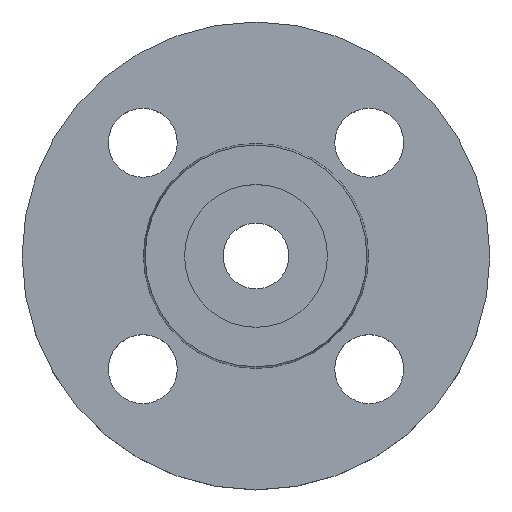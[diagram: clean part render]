
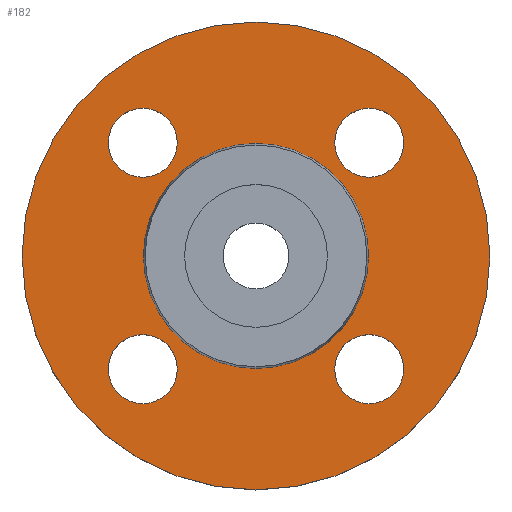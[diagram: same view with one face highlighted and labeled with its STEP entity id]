
A CAD part, top view. The second image highlights one B-rep face of the part: STEP entity #182.
In plain terms, the highlighted planar face has unit normal (0, 0, 1).
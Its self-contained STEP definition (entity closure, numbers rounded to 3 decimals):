
#9 = EDGE_CURVE ( 'NONE', #451, #426, #179, .T. ) ;
#10 = CIRCLE ( 'NONE', #317, 47.5 ) ;
#22 = DIRECTION ( 'NONE',  ( 0., 0., -1. ) ) ;
#24 = CARTESIAN_POINT ( 'NONE',  ( 22.981, 22.981, -2. ) ) ;
#44 = EDGE_CURVE ( 'NONE', #643, #428, #375, .T. ) ;
#62 = DIRECTION ( 'NONE',  ( 0., 0., -1. ) ) ;
#66 = EDGE_CURVE ( 'NONE', #603, #558, #667, .T. ) ;
#93 = AXIS2_PLACEMENT_3D ( 'NONE', #127, #125, #124 ) ;
#102 = CARTESIAN_POINT ( 'NONE',  ( -22.853, 0., -2. ) ) ;
#114 = AXIS2_PLACEMENT_3D ( 'NONE', #661, #666, #669 ) ;
#119 = CARTESIAN_POINT ( 'NONE',  ( 29.981, 22.981, -2. ) ) ;
#121 = CARTESIAN_POINT ( 'NONE',  ( 47.5, 0., -2. ) ) ;
#122 = CARTESIAN_POINT ( 'NONE',  ( 15.981, -22.981, -2. ) ) ;
#124 = DIRECTION ( 'NONE',  ( 1., 0., 0. ) ) ;
#125 = DIRECTION ( 'NONE',  ( 0., 0., -1. ) ) ;
#127 = CARTESIAN_POINT ( 'NONE',  ( -22.981, 22.981, -2. ) ) ;
#133 = DIRECTION ( 'NONE',  ( 1., 0., 0. ) ) ;
#142 = CARTESIAN_POINT ( 'NONE',  ( 22.981, -22.981, -2. ) ) ;
#158 = CIRCLE ( 'NONE', #461, 7. ) ;
#160 = DIRECTION ( 'NONE',  ( 1., 0., 0. ) ) ;
#173 = DIRECTION ( 'NONE',  ( 1., 0., 0. ) ) ;
#176 = DIRECTION ( 'NONE',  ( 0., 0., -1. ) ) ;
#179 = CIRCLE ( 'NONE', #696, 7. ) ;
#182 = ADVANCED_FACE ( 'NONE', ( #201, #202, #203, #207, #209, #210 ), #211, .T. ) ;
#188 = CIRCLE ( 'NONE', #93, 7. ) ;
#201 = FACE_BOUND ( 'NONE', #617, .T. ) ;
#202 = FACE_BOUND ( 'NONE', #559, .T. ) ;
#203 = FACE_BOUND ( 'NONE', #418, .T. ) ;
#207 = FACE_BOUND ( 'NONE', #396, .T. ) ;
#209 = FACE_BOUND ( 'NONE', #409, .T. ) ;
#210 = FACE_OUTER_BOUND ( 'NONE', #392, .T. ) ;
#211 = PLANE ( 'NONE',  #621 ) ;
#212 = EDGE_CURVE ( 'NONE', #429, #627, #158, .T. ) ;
#213 = CARTESIAN_POINT ( 'NONE',  ( 22.853, 0., -2. ) ) ;
#214 = DIRECTION ( 'NONE',  ( 0., 0., 1. ) ) ;
#215 = DIRECTION ( 'NONE',  ( 1., 0., 0. ) ) ;
#221 = CARTESIAN_POINT ( 'NONE',  ( 22.981, -22.981, -2. ) ) ;
#224 = DIRECTION ( 'NONE',  ( 0., 0., -1. ) ) ;
#225 = DIRECTION ( 'NONE',  ( 1., 0., 0. ) ) ;
#238 = DIRECTION ( 'NONE',  ( 0., 0., -1. ) ) ;
#239 = DIRECTION ( 'NONE',  ( 1., 0., 0. ) ) ;
#243 = CARTESIAN_POINT ( 'NONE',  ( -22.981, -22.981, -2. ) ) ;
#244 = AXIS2_PLACEMENT_3D ( 'NONE', #346, #347, #348 ) ;
#254 = CIRCLE ( 'NONE', #244, 47.5 ) ;
#256 = AXIS2_PLACEMENT_3D ( 'NONE', #142, #238, #173 ) ;
#317 = AXIS2_PLACEMENT_3D ( 'NONE', #723, #725, #736 ) ;
#320 = CARTESIAN_POINT ( 'NONE',  ( -29.981, -22.981, -2. ) ) ;
#327 = EDGE_CURVE ( 'NONE', #385, #628, #254, .T. ) ;
#346 = CARTESIAN_POINT ( 'NONE',  ( 0., 0., -2. ) ) ;
#347 = DIRECTION ( 'NONE',  ( 0., 0., -1. ) ) ;
#348 = DIRECTION ( 'NONE',  ( -1., 0., 0. ) ) ;
#373 = AXIS2_PLACEMENT_3D ( 'NONE', #243, #62, #160 ) ;
#375 = CIRCLE ( 'NONE', #114, 22.853 ) ;
#385 = VERTEX_POINT ( 'NONE', #613 ) ;
#392 = EDGE_LOOP ( 'NONE', ( #507, #508 ) ) ;
#394 = CIRCLE ( 'NONE', #687, 22.853 ) ;
#396 = EDGE_LOOP ( 'NONE', ( #499, #501 ) ) ;
#402 = CIRCLE ( 'NONE', #609, 7. ) ;
#409 = EDGE_LOOP ( 'NONE', ( #502, #503 ) ) ;
#418 = EDGE_LOOP ( 'NONE', ( #497, #498 ) ) ;
#426 = VERTEX_POINT ( 'NONE', #720 ) ;
#428 = VERTEX_POINT ( 'NONE', #721 ) ;
#429 = VERTEX_POINT ( 'NONE', #722 ) ;
#430 = EDGE_CURVE ( 'NONE', #628, #385, #10, .T. ) ;
#451 = VERTEX_POINT ( 'NONE', #742 ) ;
#461 = AXIS2_PLACEMENT_3D ( 'NONE', #221, #224, #225 ) ;
#490 = ORIENTED_EDGE ( 'NONE', *, *, #212, .T. ) ;
#492 = ORIENTED_EDGE ( 'NONE', *, *, #536, .T. ) ;
#493 = ORIENTED_EDGE ( 'NONE', *, *, #66, .T. ) ;
#495 = ORIENTED_EDGE ( 'NONE', *, *, #605, .T. ) ;
#496 = EDGE_CURVE ( 'NONE', #428, #643, #394, .T. ) ;
#497 = ORIENTED_EDGE ( 'NONE', *, *, #9, .T. ) ;
#498 = ORIENTED_EDGE ( 'NONE', *, *, #625, .T. ) ;
#499 = ORIENTED_EDGE ( 'NONE', *, *, #550, .T. ) ;
#500 = CIRCLE ( 'NONE', #557, 7. ) ;
#501 = ORIENTED_EDGE ( 'NONE', *, *, #619, .T. ) ;
#502 = ORIENTED_EDGE ( 'NONE', *, *, #44, .T. ) ;
#503 = ORIENTED_EDGE ( 'NONE', *, *, #496, .T. ) ;
#507 = ORIENTED_EDGE ( 'NONE', *, *, #430, .F. ) ;
#508 = ORIENTED_EDGE ( 'NONE', *, *, #327, .F. ) ;
#536 = EDGE_CURVE ( 'NONE', #627, #429, #563, .T. ) ;
#550 = EDGE_CURVE ( 'NONE', #629, #556, #402, .T. ) ;
#556 = VERTEX_POINT ( 'NONE', #785 ) ;
#557 = AXIS2_PLACEMENT_3D ( 'NONE', #24, #22, #133 ) ;
#558 = VERTEX_POINT ( 'NONE', #320 ) ;
#559 = EDGE_LOOP ( 'NONE', ( #493, #495 ) ) ;
#563 = CIRCLE ( 'NONE', #256, 7. ) ;
#596 = CIRCLE ( 'NONE', #373, 7. ) ;
#603 = VERTEX_POINT ( 'NONE', #794 ) ;
#605 = EDGE_CURVE ( 'NONE', #558, #603, #596, .T. ) ;
#609 = AXIS2_PLACEMENT_3D ( 'NONE', #649, #176, #239 ) ;
#613 = CARTESIAN_POINT ( 'NONE',  ( -47.5, 0., -2. ) ) ;
#617 = EDGE_LOOP ( 'NONE', ( #490, #492 ) ) ;
#619 = EDGE_CURVE ( 'NONE', #556, #629, #500, .T. ) ;
#621 = AXIS2_PLACEMENT_3D ( 'NONE', #213, #214, #215 ) ;
#625 = EDGE_CURVE ( 'NONE', #426, #451, #188, .T. ) ;
#627 = VERTEX_POINT ( 'NONE', #122 ) ;
#628 = VERTEX_POINT ( 'NONE', #121 ) ;
#629 = VERTEX_POINT ( 'NONE', #119 ) ;
#643 = VERTEX_POINT ( 'NONE', #102 ) ;
#645 = CARTESIAN_POINT ( 'NONE',  ( -22.981, 22.981, -2. ) ) ;
#647 = DIRECTION ( 'NONE',  ( 0., 0., -1. ) ) ;
#648 = DIRECTION ( 'NONE',  ( 1., 0., 0. ) ) ;
#649 = CARTESIAN_POINT ( 'NONE',  ( 22.981, 22.981, -2. ) ) ;
#661 = CARTESIAN_POINT ( 'NONE',  ( 0., 0., -2. ) ) ;
#666 = DIRECTION ( 'NONE',  ( 0., 0., -1. ) ) ;
#667 = CIRCLE ( 'NONE', #718, 7. ) ;
#669 = DIRECTION ( 'NONE',  ( -1., 0., 0. ) ) ;
#679 = CARTESIAN_POINT ( 'NONE',  ( -22.981, -22.981, -2. ) ) ;
#681 = DIRECTION ( 'NONE',  ( 0., 0., -1. ) ) ;
#682 = DIRECTION ( 'NONE',  ( 1., 0., 0. ) ) ;
#687 = AXIS2_PLACEMENT_3D ( 'NONE', #774, #775, #776 ) ;
#696 = AXIS2_PLACEMENT_3D ( 'NONE', #645, #647, #648 ) ;
#718 = AXIS2_PLACEMENT_3D ( 'NONE', #679, #681, #682 ) ;
#720 = CARTESIAN_POINT ( 'NONE',  ( -29.981, 22.981, -2. ) ) ;
#721 = CARTESIAN_POINT ( 'NONE',  ( 22.853, 0., -2. ) ) ;
#722 = CARTESIAN_POINT ( 'NONE',  ( 29.981, -22.981, -2. ) ) ;
#723 = CARTESIAN_POINT ( 'NONE',  ( 0., 0., -2. ) ) ;
#725 = DIRECTION ( 'NONE',  ( 0., 0., -1. ) ) ;
#736 = DIRECTION ( 'NONE',  ( -1., 0., 0. ) ) ;
#742 = CARTESIAN_POINT ( 'NONE',  ( -15.981, 22.981, -2. ) ) ;
#774 = CARTESIAN_POINT ( 'NONE',  ( 0., 0., -2. ) ) ;
#775 = DIRECTION ( 'NONE',  ( 0., 0., -1. ) ) ;
#776 = DIRECTION ( 'NONE',  ( -1., 0., 0. ) ) ;
#785 = CARTESIAN_POINT ( 'NONE',  ( 15.981, 22.981, -2. ) ) ;
#794 = CARTESIAN_POINT ( 'NONE',  ( -15.981, -22.981, -2. ) ) ;
